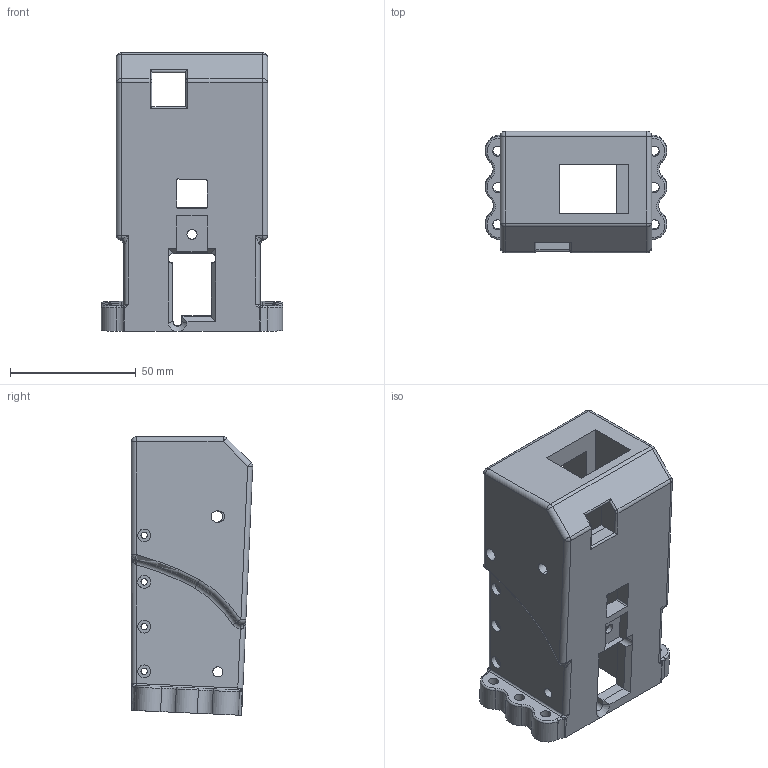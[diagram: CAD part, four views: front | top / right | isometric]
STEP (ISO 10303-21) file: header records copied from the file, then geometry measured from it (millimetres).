
FILE_DESCRIPTION(/* description */ (''),/* implementation_level */ '2;1');
FILE_NAME(/* name */ 'D:\Downloads\Plastikov-v1-0\STEP\Plastikov v0.9 Rear Receiver.stp',/* time_stamp */ '2020-03-23T00:34:31-05:00',/* author */ ('johne'),/* organization */ (''),/* preprocessor_version */ 'ST-DEVELOPER v18',/* originating_system */ 'Autodesk Inventor 2020',/* authorisation */ '');
FILE_SCHEMA (('AUTOMOTIVE_DESIGN { 1 0 10303 214 3 1 1 }'));
Length unit declared in the file: millimetre
Products named in the file (1): Plastikov v0.9 Rear Receiver
Bounding box: 72.2 x 48.28 x 110.76 mm (x, y, z)
Volume: 148150.9 mm3; surface area: 38790.2 mm2
Topology: 1 solids, 1 shells, 223 faces, 588 edges, 367 vertices
Faces by surface type: cylinder 86, plane 69, torus 27, bspline 26, sphere 14, cone 1
Full cylindrical faces by diameter (mm): 2.5 x8, 3.12 x4, 4 x9, 4.5 x1, 5.08 x8
Entity records: 7963 total; most frequent: CARTESIAN_POINT 2263, DIRECTION 1225, ORIENTED_EDGE 1160, EDGE_CURVE 580, AXIS2_PLACEMENT_3D 488, VERTEX_POINT 367, EDGE_LOOP 277, CIRCLE 264
